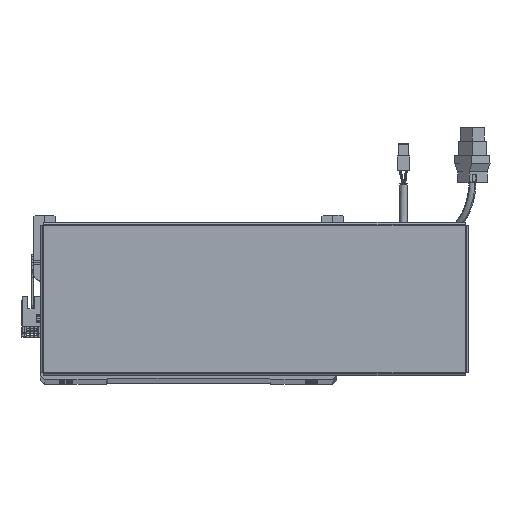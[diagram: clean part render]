
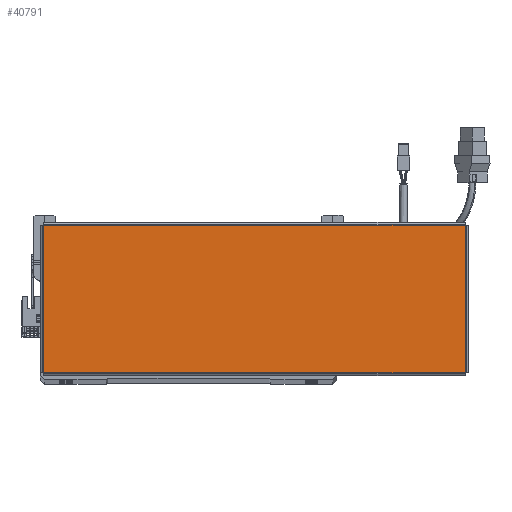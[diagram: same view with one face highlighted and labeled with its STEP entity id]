
A CAD part, top view. The second image highlights one B-rep face of the part: STEP entity #40791.
In plain terms, the highlighted planar face has unit normal (0, 0, 1).
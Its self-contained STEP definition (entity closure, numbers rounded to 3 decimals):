
#293 = LINE ( 'NONE', #57303, #41456 ) ;
#698 = ORIENTED_EDGE ( 'NONE', *, *, #73084, .T. ) ;
#951 = DIRECTION ( 'NONE',  ( -1., 0., 0. ) ) ;
#2107 = CARTESIAN_POINT ( 'NONE',  ( -156.513, 54.763, 0. ) ) ;
#4058 = DIRECTION ( 'NONE',  ( 0., 1., 0. ) ) ;
#4136 = CARTESIAN_POINT ( 'NONE',  ( -156.543, -54.763, 0. ) ) ;
#4390 = DIRECTION ( 'NONE',  ( 1., 0., 0. ) ) ;
#5413 = VERTEX_POINT ( 'NONE', #2107 ) ;
#6526 = LINE ( 'NONE', #4136, #21268 ) ;
#12939 = ORIENTED_EDGE ( 'NONE', *, *, #30077, .T. ) ;
#15190 = LINE ( 'NONE', #58534, #56347 ) ;
#17619 = DIRECTION ( 'NONE',  ( 0., -1., 0. ) ) ;
#17662 = VERTEX_POINT ( 'NONE', #46734 ) ;
#17672 = EDGE_CURVE ( 'NONE', #5413, #60575, #23154, .T. ) ;
#21268 = VECTOR ( 'NONE', #4390, 1000. ) ;
#21842 = PLANE ( 'NONE',  #70112 ) ;
#23154 = LINE ( 'NONE', #45992, #54273 ) ;
#24970 = CARTESIAN_POINT ( 'NONE',  ( -156.513, -54.763, 0. ) ) ;
#30077 = EDGE_CURVE ( 'NONE', #17662, #34754, #293, .T. ) ;
#34295 = CARTESIAN_POINT ( 'NONE',  ( 0., 0., 0. ) ) ;
#34754 = VERTEX_POINT ( 'NONE', #52010 ) ;
#37759 = ORIENTED_EDGE ( 'NONE', *, *, #58243, .T. ) ;
#40283 = FACE_OUTER_BOUND ( 'NONE', #58413, .T. ) ;
#40791 = ADVANCED_FACE ( 'NONE', ( #40283 ), #21842, .T. ) ;
#41456 = VECTOR ( 'NONE', #4058, 1000. ) ;
#45992 = CARTESIAN_POINT ( 'NONE',  ( -156.513, 54.793, 0. ) ) ;
#46734 = CARTESIAN_POINT ( 'NONE',  ( 156.513, -54.763, 0. ) ) ;
#51722 = DIRECTION ( 'NONE',  ( 0., 0., 1. ) ) ;
#52010 = CARTESIAN_POINT ( 'NONE',  ( 156.513, 54.763, 0. ) ) ;
#54273 = VECTOR ( 'NONE', #17619, 1000. ) ;
#56347 = VECTOR ( 'NONE', #951, 1000. ) ;
#57303 = CARTESIAN_POINT ( 'NONE',  ( 156.513, -54.793, 0. ) ) ;
#58243 = EDGE_CURVE ( 'NONE', #60575, #17662, #6526, .T. ) ;
#58413 = EDGE_LOOP ( 'NONE', ( #37759, #12939, #698, #63424 ) ) ;
#58534 = CARTESIAN_POINT ( 'NONE',  ( 156.543, 54.763, 0. ) ) ;
#60575 = VERTEX_POINT ( 'NONE', #24970 ) ;
#63424 = ORIENTED_EDGE ( 'NONE', *, *, #17672, .T. ) ;
#68611 = DIRECTION ( 'NONE',  ( 1., 0., 0. ) ) ;
#70112 = AXIS2_PLACEMENT_3D ( 'NONE', #34295, #51722, #68611 ) ;
#73084 = EDGE_CURVE ( 'NONE', #34754, #5413, #15190, .T. ) ;
